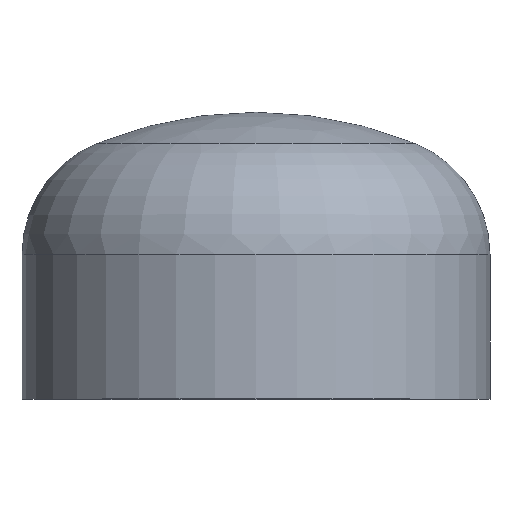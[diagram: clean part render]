
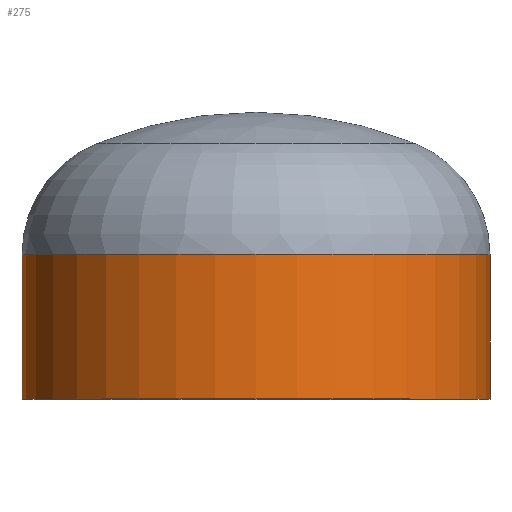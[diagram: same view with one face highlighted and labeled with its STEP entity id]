
A CAD part, top view. The second image highlights one B-rep face of the part: STEP entity #275.
In plain terms, the highlighted cylindrical face has radius 177.8 mm (diameter 355.6 mm), a partial arc.
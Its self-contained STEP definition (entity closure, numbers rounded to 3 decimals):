
#1 = AXIS2_PLACEMENT_3D ( 'NONE', #160, #282, #286 ) ;
#10 = EDGE_LOOP ( 'NONE', ( #112, #137, #49, #101 ) ) ;
#49 = ORIENTED_EDGE ( 'NONE', *, *, #327, .F. ) ;
#86 = VERTEX_POINT ( 'NONE', #281 ) ;
#101 = ORIENTED_EDGE ( 'NONE', *, *, #325, .F. ) ;
#108 = DIRECTION ( 'NONE',  ( 0., -1., 0. ) ) ;
#111 = VERTEX_POINT ( 'NONE', #187 ) ;
#112 = ORIENTED_EDGE ( 'NONE', *, *, #349, .T. ) ;
#127 = LINE ( 'NONE', #192, #328 ) ;
#130 = VERTEX_POINT ( 'NONE', #241 ) ;
#137 = ORIENTED_EDGE ( 'NONE', *, *, #332, .T. ) ;
#144 = DIRECTION ( 'NONE',  ( 1., 0., 0. ) ) ;
#152 = CARTESIAN_POINT ( 'NONE',  ( 0., 110., 0. ) ) ;
#160 = CARTESIAN_POINT ( 'NONE',  ( 0., 0., 0. ) ) ;
#169 = CARTESIAN_POINT ( 'NONE',  ( 0., 0., 0. ) ) ;
#174 = DIRECTION ( 'NONE',  ( 1., 0., 0. ) ) ;
#179 = DIRECTION ( 'NONE',  ( 0., -1., 0. ) ) ;
#187 = CARTESIAN_POINT ( 'NONE',  ( 177.8, 110., 0. ) ) ;
#189 = CARTESIAN_POINT ( 'NONE',  ( 177.8, 0., 0. ) ) ;
#192 = CARTESIAN_POINT ( 'NONE',  ( -177.8, 0., 0. ) ) ;
#241 = CARTESIAN_POINT ( 'NONE',  ( -177.8, 0., 0. ) ) ;
#246 = AXIS2_PLACEMENT_3D ( 'NONE', #169, #179, #144 ) ;
#247 = CIRCLE ( 'NONE', #274, 177.8 ) ;
#261 = CIRCLE ( 'NONE', #1, 177.8 ) ;
#274 = AXIS2_PLACEMENT_3D ( 'NONE', #152, #326, #174 ) ;
#275 = ADVANCED_FACE ( 'NONE', ( #346 ), #336, .T. ) ;
#281 = CARTESIAN_POINT ( 'NONE',  ( -177.8, 110., 0. ) ) ;
#282 = DIRECTION ( 'NONE',  ( 0., -1., 0. ) ) ;
#286 = DIRECTION ( 'NONE',  ( 1., 0., 0. ) ) ;
#314 = CARTESIAN_POINT ( 'NONE',  ( 177.8, 0., 0. ) ) ;
#325 = EDGE_CURVE ( 'NONE', #111, #333, #403, .T. ) ;
#326 = DIRECTION ( 'NONE',  ( 0., -1., 0. ) ) ;
#327 = EDGE_CURVE ( 'NONE', #333, #130, #261, .T. ) ;
#328 = VECTOR ( 'NONE', #348, 1000. ) ;
#332 = EDGE_CURVE ( 'NONE', #86, #130, #127, .T. ) ;
#333 = VERTEX_POINT ( 'NONE', #189 ) ;
#336 = CYLINDRICAL_SURFACE ( 'NONE', #246, 177.8 ) ;
#346 = FACE_OUTER_BOUND ( 'NONE', #10, .T. ) ;
#348 = DIRECTION ( 'NONE',  ( 0., -1., 0. ) ) ;
#349 = EDGE_CURVE ( 'NONE', #111, #86, #247, .T. ) ;
#398 = VECTOR ( 'NONE', #108, 1000. ) ;
#403 = LINE ( 'NONE', #314, #398 ) ;
